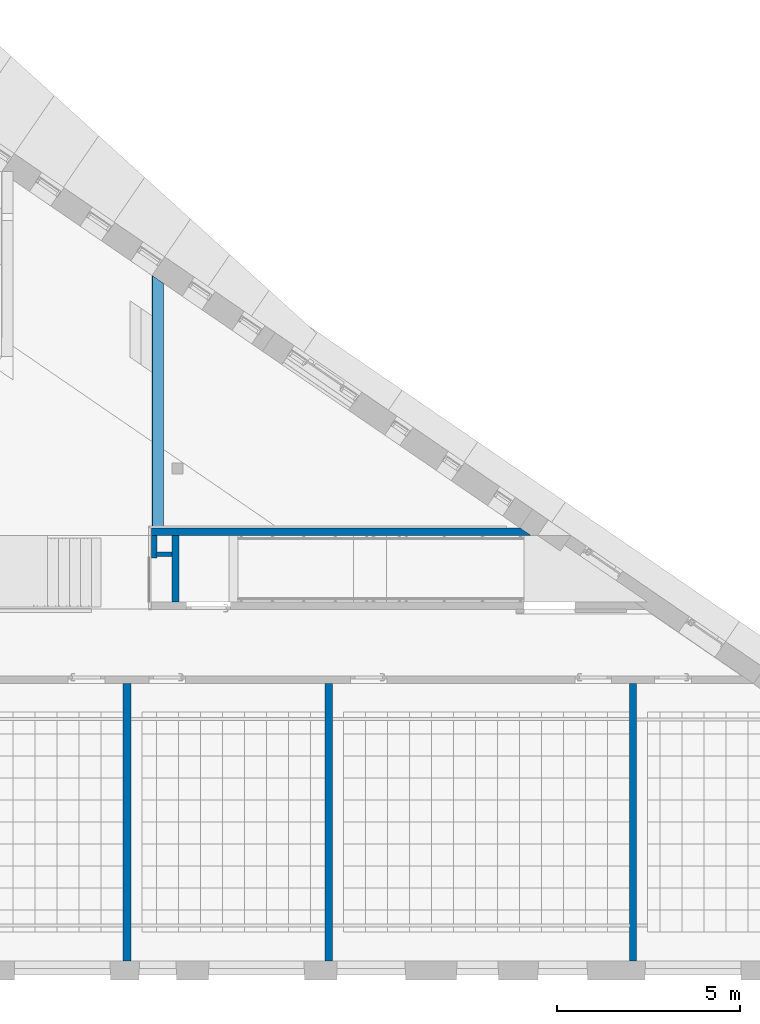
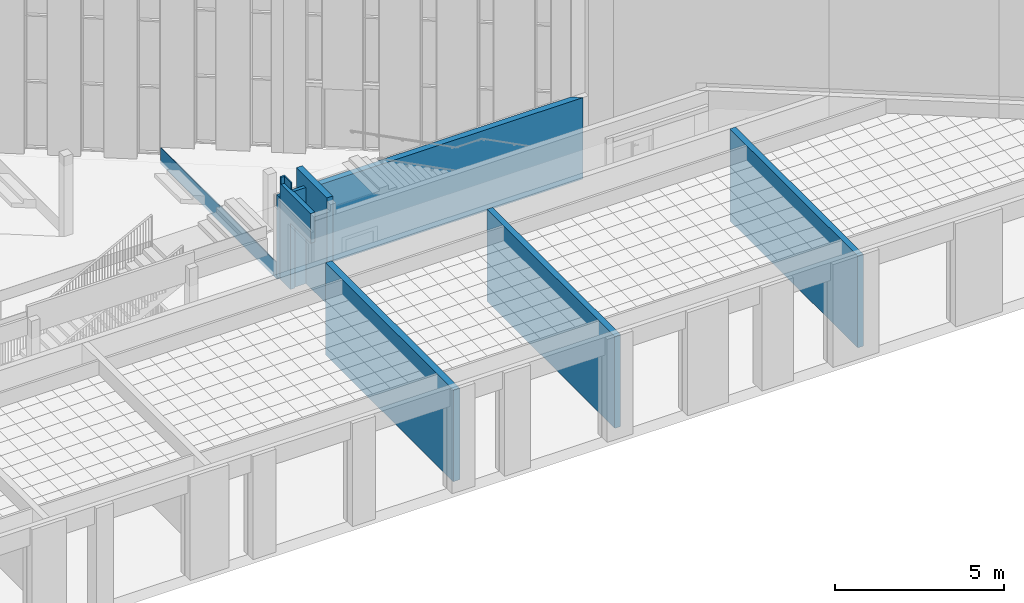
# One storey, part 42 of 79: 8 walls, 1 opening.
"""IFC2X3 building model written with IfcOpenShell, lengths in millimetres."""

from ifc_helpers import new_model, entity, si_unit, converted_unit, derived_unit, money_unit, direction, frame, origin_with_axes, place, context, subcontext, project, spatial, faceted_brep, material, material_list, type_object, element, save


model = new_model("IFC2X3")

# Units and contexts
model_context = context("Model", 3, precision=0.01, world=origin_with_axes(), true_north=direction((0.0, 1.0)))
body_context = subcontext(model_context, "Body", "Model", "MODEL_VIEW")
ifc_project = project(units=[si_unit("LENGTHUNIT", "METRE", prefix="MILLI"), si_unit("AREAUNIT", "SQUARE_METRE"), si_unit("VOLUMEUNIT", "CUBIC_METRE"), converted_unit("PLANEANGLEUNIT", "DEGREE", entity("IfcPlaneAngleMeasure", 0.0174532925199), si_unit("PLANEANGLEUNIT", "RADIAN"), dimensions=[0, 0, 0, 0, 0, 0, 0]), si_unit("SOLIDANGLEUNIT", "STERADIAN"), money_unit("EUR"), converted_unit("TIMEUNIT", "Year", entity("IfcTimeMeasure", 31556926.0), si_unit("TIMEUNIT", "SECOND"), dimensions=[0, 0, 1, 0, 0, 0, 0]), si_unit("MASSUNIT", "GRAM", prefix="KILO"), si_unit("THERMODYNAMICTEMPERATUREUNIT", "DEGREE_CELSIUS"), si_unit("LUMINOUSINTENSITYUNIT", "LUMEN"), si_unit("ENERGYUNIT", "JOULE", prefix="MEGA"), derived_unit("THERMALCONDUCTANCEUNIT", [(si_unit("POWERUNIT", "WATT"), 1), (si_unit("LENGTHUNIT", "METRE"), -1), (si_unit("THERMODYNAMICTEMPERATUREUNIT", "KELVIN"), -1)]), derived_unit("SPECIFICHEATCAPACITYUNIT", [(si_unit("ENERGYUNIT", "JOULE"), 1), (si_unit("MASSUNIT", "GRAM", prefix="KILO"), -1), (si_unit("THERMODYNAMICTEMPERATUREUNIT", "KELVIN"), -1)]), derived_unit("MASSDENSITYUNIT", [(si_unit("MASSUNIT", "GRAM", prefix="KILO"), 1), (si_unit("VOLUMEUNIT", "CUBIC_METRE"), -1)])], contexts=[model_context])

# Site, building, storey
site_placement = place(None, origin_with_axes())
site = spatial("IfcSite", under=ifc_project, at=site_placement, Name="L.Koidula tn 11b", CompositionType="ELEMENT")
building_placement = place(site_placement, origin_with_axes())
building = spatial("IfcBuilding", under=site, at=building_placement, Name="Rakvere Riigigümnaasium", CompositionType="ELEMENT")
storey_placement = place(building_placement, frame((0.0, 0.0, 3720.0), z_axis=(0.0, 0.0, 1.0), x_axis=(1.0, 0.0, 0.0)))
storey = spatial("IfcBuildingStorey", under=building, at=storey_placement, Name="2.korrus +3,72", CompositionType="ELEMENT", Elevation=3720.0)

# Wall
ifc_material_1 = material(Name="Betoon element / plaat")
wall_type_1 = type_object("IfcWallType", Name="SS-01 200", PredefinedType="NOTDEFINED")
wall_1_placement = place(storey_placement, frame((75989.9821418, 15100.4785302, 0.0), z_axis=(0.0, 0.0, 1.0), x_axis=(0.0, 1.0, 0.0)))
element("IfcWall", 1, at=wall_1_placement, inside=storey, type_object=wall_type_1, material=ifc_material_1, Name="Sisesein", context=body_context, shape_type="Brep", body=[
    faceted_brep([(200.000004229, -200.0, 3845.0), (200.0, -200.0, 0.0), (2009.97701138, -199.997962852, 0.0), (2009.97698206, -200.0, 3845.0), (200.0, 0.0, 0.0), (200.000004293, 0.0, 3845.0), (2009.97701138, 0.00203714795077, 0.0), (2009.97698206, 0.0, 3845.0)], [[[0, 1, 2, 3]], [[4, 1, 0, 5]], [[1, 4, 6, 2]], [[6, 7, 3, 2]], [[3, 7, 5, 0]], [[5, 7, 6, 4]]]),
])

# Wall, opening
ifc_material_2 = material(Name="Kipsplaat")
ifc_material_3 = material(Name="mineraalvill+karkass")
ifc_material_list_1 = material_list([ifc_material_2, ifc_material_2, ifc_material_3, ifc_material_2, ifc_material_2])
wall_type_2 = type_object("IfcWallType", Name="SS-07 155", PredefinedType="NOTDEFINED")
wall_2_placement = place(storey_placement, frame((75429.9821418, 15100.4785302, 0.0), z_axis=(0.0, 0.0, 1.0), x_axis=(0.0, 1.0, 0.0)))
wall_2 = element("IfcWall", 2, at=wall_2_placement, inside=storey, type_object=wall_type_2, material=ifc_material_list_1, Name="Sisesein", context=body_context, shape_type="Brep", body=[
    faceted_brep([(1400.0, -15.0, 2400.0), (1400.0, -15.0, 0.0), (2009.97701138, -15.0, 0.0), (2009.97698206, -15.0, 3720.0), (1949.97697553, -15.0, 3720.0), (1949.97697553, -15.0, 3470.0), (200.0, -15.0, 3470.0), (200.0, -15.0, 2400.0), (1400.0, 0.0, 2400.0), (1400.0, 0.0, 0.0), (2009.97701138, 0.0, 0.0), (2009.97698206, -1.7038672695e-06, 3720.0), (1949.97697553, -1.64737912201e-06, 3720.0), (1949.97697553, 0.0, 3470.0), (200.0, 0.0, 3470.0), (200.0, 0.0, 2400.0)], [[[0, 1, 2, 3, 4, 5, 6, 7]], [[1, 0, 8, 9]], [[1, 9, 10, 2]], [[3, 2, 10, 11]], [[4, 3, 11, 12]], [[4, 12, 13, 5]], [[14, 6, 5, 13]], [[15, 7, 6, 14]], [[0, 7, 15, 8]], [[8, 15, 14, 13, 12, 11, 10, 9]]]),
    faceted_brep([(1400.0, -30.0, 2400.0), (1400.0, -30.0, 0.0), (2009.97701138, -30.0, 0.0), (2009.97698206, -30.0, 3720.0), (1949.97697553, -30.0, 3720.0), (1949.97697553, -30.0, 3470.0), (200.0, -30.0, 3470.0), (200.0, -30.0, 2400.0), (1400.0, -15.0, 2400.0), (1400.0, -15.0, 0.0), (2009.97701138, -15.0, 0.0), (2009.97698206, -15.0, 3720.0), (1949.97697553, -15.0, 3720.0), (1949.97697553, -15.0, 3470.0), (200.0, -15.0, 3470.0), (200.0, -15.0, 2400.0)], [[[0, 1, 2, 3, 4, 5, 6, 7]], [[1, 0, 8, 9]], [[1, 9, 10, 2]], [[3, 2, 10, 11]], [[4, 3, 11, 12]], [[4, 12, 13, 5]], [[14, 6, 5, 13]], [[15, 7, 6, 14]], [[0, 7, 15, 8]], [[8, 15, 14, 13, 12, 11, 10, 9]]]),
    faceted_brep([(1400.0, -125.0, 2400.0), (1400.0, -125.0, 0.0), (2009.97701138, -125.0, 0.0), (2009.97698206, -125.0, 3720.0), (1559.97698206, -125.0, 3720.0), (1559.97698206, -125.0, 3470.0), (200.0, -125.0, 3470.0), (200.0, -125.0, 2400.0), (1400.0, -30.0, 2400.0), (1400.0, -30.0, 0.0), (2009.97701138, -30.0, 0.0), (2009.97698206, -30.0, 3720.0), (1949.97697553, -30.0, 3720.0), (1949.97697553, -117.5, 3720.0), (1559.97698206, -117.5, 3720.0), (1559.97698206, -117.5, 3470.0), (1949.97697553, -117.5, 3470.0), (1949.97697553, -30.0, 3470.0), (200.0, -30.0, 3470.0), (200.0, -30.0, 2400.0)], [[[0, 1, 2, 3, 4, 5, 6, 7]], [[1, 0, 8, 9]], [[1, 9, 10, 2]], [[3, 2, 10, 11]], [[3, 11, 12, 13, 14, 4]], [[4, 14, 15, 5]], [[5, 15, 16, 17, 18, 6]], [[19, 7, 6, 18]], [[0, 7, 19, 8]], [[8, 19, 18, 17, 12, 11, 10, 9]], [[12, 17, 16, 13]], [[13, 16, 15, 14]]]),
    faceted_brep([(1400.0, -140.0, 2400.0), (1400.0, -140.0, 0.0), (1468.47698206, -140.0, 0.0), (1468.47698206, -140.0, 3470.0), (200.0, -140.0, 3470.0), (200.0, -140.0, 2400.0), (1400.0, -125.0, 2400.0), (1400.0, -125.0, 0.0), (1468.47698206, -125.0, 0.0), (1468.47698206, -125.0, 3470.0), (200.0, -125.0, 3470.0), (200.0, -125.0, 2400.0)], [[[0, 1, 2, 3, 4, 5]], [[1, 0, 6, 7]], [[1, 7, 8, 2]], [[3, 2, 8, 9]], [[3, 9, 10, 4]], [[11, 5, 4, 10]], [[0, 5, 11, 6]], [[6, 11, 10, 9, 8, 7]]]),
    faceted_brep([(1559.97698206, -125.0, 3720.0), (1559.97698206, -140.0, 3720.0), (2009.97698206, -140.0, 3720.0), (2009.97698206, -125.0, 3720.0), (1559.97698206, -140.0, 3470.0), (1559.97698206, -125.0, 3470.0), (1534.47698206, -140.0, 3470.0), (1534.47698206, -140.0, 0.0), (2009.97701138, -140.0, 0.0), (2009.97701138, -125.0, 0.0), (1534.47698206, -125.0, 0.0), (1534.47698206, -125.0, 3470.0)], [[[0, 1, 2, 3]], [[4, 1, 0, 5]], [[4, 6, 7, 8, 2, 1]], [[3, 2, 8, 9]], [[5, 0, 3, 9, 10, 11]], [[6, 4, 5, 11]], [[6, 11, 10, 7]], [[8, 7, 10, 9]]]),
    faceted_brep([(1400.0, -155.0, 2400.0), (1400.0, -155.0, 0.0), (1455.47698206, -155.0, 0.0), (1455.47698206, -155.0, 3470.0), (200.0, -155.0, 3470.0), (200.0, -155.0, 2400.0), (1400.0, -140.0, 2400.0), (1400.0, -140.0, 0.0), (1455.47698206, -140.0, 0.0), (1455.47698206, -140.0, 3470.0), (200.0, -140.0, 3470.0), (200.0, -140.0, 2400.0)], [[[0, 1, 2, 3, 4, 5]], [[1, 0, 6, 7]], [[1, 7, 8, 2]], [[3, 2, 8, 9]], [[3, 9, 10, 4]], [[11, 5, 4, 10]], [[0, 5, 11, 6]], [[6, 11, 10, 9, 8, 7]]]),
    faceted_brep([(1559.97698206, -140.0, 3720.0), (1559.97698206, -155.0, 3720.0), (2009.97698206, -155.0, 3720.0), (2009.97698206, -140.0, 3720.0), (1559.97698206, -155.0, 3470.0), (1559.97698206, -140.0, 3470.0), (1546.97698206, -155.0, 3470.0), (1546.97698206, -155.0, 0.0), (2009.97701138, -155.0, 0.0), (2009.97701138, -140.0, 0.0), (1546.97698206, -140.0, 0.0), (1546.97698206, -140.0, 3470.0)], [[[0, 1, 2, 3]], [[4, 1, 0, 5]], [[4, 6, 7, 8, 2, 1]], [[3, 2, 8, 9]], [[5, 0, 3, 9, 10, 11]], [[6, 4, 5, 11]], [[6, 11, 10, 7]], [[8, 7, 10, 9]]]),
])
opening_placement = place(wall_2_placement, frame((800.0, 0.0, 0.0), z_axis=(0.0, 0.0, 1.0), x_axis=(1.0, 0.0, 0.0)))
element("IfcOpeningElement", 3, at=opening_placement, cuts=wall_2, Name="ava", context=body_context, shape_type="Brep", body=[
    faceted_brep([(600.0, 155.0, 0.0), (600.0, 155.0, 2400.0), (600.0, 0.0, 2400.0), (600.0, 0.0, 0.0), (-600.0, 155.0, 0.0), (-600.0, 155.0, 2400.0), (-600.0, 0.0, 2400.0), (-600.0, 0.0, 0.0)], [[[0, 1, 2, 3]], [[0, 4, 5, 1]], [[1, 5, 6, 2]], [[3, 2, 6, 7]], [[4, 0, 3, 7]], [[5, 4, 7, 6]]]),
    faceted_brep([(600.0, -155.0, 2400.0), (600.0, -155.0, 0.0), (600.0, 0.0, 0.0), (600.0, 0.0, 2400.0), (-600.0, -155.0, 2400.0), (-600.0, -155.0, 0.0), (-600.0, 0.0, 0.0), (-600.0, 0.0, 2400.0)], [[[0, 1, 2, 3]], [[0, 4, 5, 1]], [[1, 5, 6, 2]], [[3, 2, 6, 7]], [[4, 0, 3, 7]], [[5, 4, 7, 6]]]),
])

# Walls
ifc_material_4 = material(Name="siseviimistlus-seinad")
ifc_material_list_2 = material_list([ifc_material_4, ifc_material_1, ifc_material_4])
wall_type_3 = type_object("IfcWallType", Name="SS-01-2 220", PredefinedType="NOTDEFINED")
wall_3_placement = place(storey_placement, frame((74660.015089, 13280.4543717, 0.0), z_axis=(0.0, 0.0, 1.0), x_axis=(0.0, -1.0, 0.0)))
element("IfcWall", 4, at=wall_3_placement, inside=storey, type_object=wall_type_3, material=ifc_material_list_2, Name="Sisesein", context=body_context, shape_type="Brep", body=[
    faceted_brep([(7779.99883287, 200.0, 3320.0), (7779.99883287, 210.0, 3320.0), (210.0, 210.0, 3320.00000006), (210.0, 200.0, 3320.00000006), (7779.99883287, 200.0, 0.0), (7779.99883287, 210.0, 0.0), (210.0, 210.0, 0.0), (210.0, 200.0, 0.0)], [[[0, 1, 2, 3]], [[1, 0, 4, 5]], [[1, 5, 6, 2]], [[3, 2, 6, 7]], [[0, 3, 7, 4]], [[5, 4, 7, 6]]]),
    faceted_brep([(7779.99883287, 0.0, 3320.0), (7779.99883287, 200.0, 3320.0), (200.0, 200.0, 3320.00000006), (200.0, 0.0, 3320.00000006), (7779.99883287, 0.0, 0.0), (7779.99883287, 200.0, 0.0), (200.0, 200.0, 0.0), (200.0, 0.0, 0.0)], [[[0, 1, 2, 3]], [[1, 0, 4, 5]], [[1, 5, 6, 2]], [[3, 2, 6, 7]], [[0, 3, 7, 4]], [[5, 4, 7, 6]]]),
    faceted_brep([(7779.99883287, -10.0, 3320.0), (7779.99883287, 0.0, 3320.0), (210.0, 0.0, 3320.00000006), (210.0, -10.0, 3320.00000006), (7779.99883287, -10.0, 0.0), (7779.99883287, 0.0, 0.0), (210.0, 0.0, 0.0), (210.0, -10.0, 0.0)], [[[0, 1, 2, 3]], [[1, 0, 4, 5]], [[1, 5, 6, 2]], [[3, 2, 6, 7]], [[0, 3, 7, 4]], [[5, 4, 7, 6]]]),
])
ifc_material_list_3 = material_list([ifc_material_4, ifc_material_1])
wall_type_4 = type_object("IfcWallType", Name="SS-01-1 210", PredefinedType="NOTDEFINED")
wall_4_placement = place(storey_placement, frame((75429.9821418, 17110.4555416, 0.0), z_axis=(0.0, 0.0, 1.0), x_axis=(1.0, 0.0, 0.0)))
element("IfcWall", 5, at=wall_4_placement, inside=storey, type_object=wall_type_4, material=ifc_material_list_3, Name="Sisesein", context=body_context, shape_type="Brep", body=[
    faceted_brep([(-9.51152685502e-05, 210.0, 2550.0), (3449.03442456, 210.0, 2550.0), (3449.03442456, 210.0, 2945.0), (10054.1332152, 210.0, 2945.0), (10054.1332152, 210.0, 465.0), (10360.3105331, 210.0, 465.0), (10360.3105331, 210.0, 0.0), (759.997745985, 210.0, 0.0), (759.997745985, 210.0, 69.9999970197), (559.997745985, 210.0, 69.9999970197), (559.997745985, 210.0, 0.0), (0.0, 210.0, 0.0), (-9.51152685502e-05, 199.999937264, 2550.0), (3449.03442456, 199.999937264, 2550.0), (3449.03442456, 199.999937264, 2945.0), (10068.7130874, 200.0, 2945.0), (10068.7130874, 200.0, 465.0), (10360.3105331, 200.0, 465.0), (10360.3105331, 200.0, 0.0), (759.99773775, 200.0, 0.0), (759.99773775, 200.0, 69.9999970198), (559.99773775, 200.0, 69.9999970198), (559.99773775, 200.0, 0.0), (0.0, 200.0, 0.0)], [[[0, 1, 2, 3, 4, 5, 6, 7, 8, 9, 10, 11]], [[1, 0, 12, 13]], [[2, 1, 13, 14]], [[2, 14, 15, 3]], [[4, 3, 15, 16]], [[16, 17, 5, 4]], [[6, 5, 17, 18]], [[18, 19, 7, 6]], [[20, 8, 7, 19]], [[21, 9, 8, 20]], [[22, 10, 9, 21]], [[11, 10, 22, 23]], [[12, 0, 11, 23]], [[13, 12, 23, 22, 21, 20, 19, 18, 17, 16, 15, 14]]]),
    faceted_brep([(0.0, 200.0, 2945.0), (10068.7130874, 200.0, 2945.0), (10068.7130874, 200.0, 465.0), (10360.3105331, 200.0, 465.0), (10360.3105331, 200.0, 0.0), (0.0, 200.0, 0.0), (0.0, 0.0, 2945.0), (10360.3105488, -1.07664028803e-05, 2945.0), (10360.3105331, 0.0, 465.0), (10360.3105331, 0.0, 0.0), (0.0, 0.0, 0.0)], [[[0, 1, 2, 3, 4, 5]], [[6, 7, 1, 0]], [[2, 1, 7, 8]], [[2, 8, 3]], [[4, 3, 8, 9]], [[10, 5, 4, 9]], [[5, 10, 6, 0]], [[9, 8, 7, 6, 10]]]),
])
ifc_material_5 = material(Name="Parkett-2")
ifc_material_6 = material(Name="Viineer")
ifc_material_list_4 = material_list([ifc_material_5, ifc_material_6, ifc_material_1])
wall_type_5 = type_object("IfcWallType", Name="SS-01-3 320", PredefinedType="NOTDEFINED")
wall_5_placement = place(storey_placement, frame((75465.08798, 17320.4555416, -130.0), z_axis=(0.0, 0.0, 1.0), x_axis=(0.0, 1.0, 0.0)))
element("IfcWall", 6, at=wall_5_placement, inside=storey, type_object=wall_type_5, material=ifc_material_list_4, Name="Sisesein", context=body_context, shape_type="Brep", body=[
    faceted_brep([(6885.53862645, 20.0, 595.0), (0.0, 20.0, 595.0), (0.0, 10.0, 595.0), (6878.68716617, 10.0, 595.0), (6885.53862645, 20.0, 0.0), (0.0, 20.0, 0.0), (0.0, 10.0, 0.0), (6878.68716617, 10.0, 0.0)], [[[0, 1, 2, 3]], [[4, 5, 1, 0]], [[2, 1, 5, 6]], [[3, 2, 6, 7]], [[3, 7, 4, 0]], [[7, 6, 5, 4]]]),
    faceted_brep([(6878.68716617, 10.0, 465.0), (6871.82839552, 0.0, 465.0), (6871.82839552, 0.0, 0.0), (6878.68716617, 10.0, 0.0), (0.0, 0.0, 465.0), (0.0, 10.0, 465.0), (0.0, 0.0, 0.0), (0.0, 10.0, 0.0)], [[[0, 1, 2, 3]], [[4, 1, 0, 5]], [[1, 4, 6, 2]], [[3, 2, 6, 7]], [[5, 0, 3, 7]], [[4, 5, 7, 6]]]),
    faceted_brep([(6871.82839552, 0.0, 200.0), (6666.06527621, -300.0, 200.0), (6666.06527621, -300.0, 0.0), (6871.82839552, 0.0, 0.0), (0.0, -300.0, 200.0), (0.0, 0.0, 200.0), (0.0, -300.0, 0.0), (0.0, 0.0, 0.0)], [[[0, 1, 2, 3]], [[4, 1, 0, 5]], [[1, 4, 6, 2]], [[3, 2, 6, 7]], [[5, 0, 3, 7]], [[4, 5, 7, 6]]]),
])
wall_type_6 = type_object("IfcWallType", Name="SS-08 118", PredefinedType="NOTDEFINED")
wall_6_placement = place(storey_placement, frame((75989.9821418, 16660.4555123, 0.0), z_axis=(0.0, 0.0, 1.0), x_axis=(-1.0, 0.0, 0.0)))
element("IfcWall", 7, at=wall_6_placement, inside=storey, type_object=wall_type_6, material=ifc_material_list_1, Name="Sisesein", context=body_context, shape_type="Brep", body=[
    faceted_brep([(405.0, 104.5, 3470.0), (0.000202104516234, 104.5, 3470.0), (0.0, 104.5, 0.0), (405.0, 104.5, 0.0), (0.000200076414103, 117.5, 3470.0), (405.0, 117.5, 3470.0), (0.0, 117.5, 0.0), (405.0, 117.5, 0.0)], [[[0, 1, 2, 3]], [[4, 1, 0, 5]], [[1, 4, 6, 2]], [[6, 7, 3, 2]], [[5, 0, 3, 7]], [[4, 5, 7, 6]]]),
    faceted_brep([(420.0, 91.5, 3470.0), (0.000204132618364, 91.5, 3470.0), (0.0, 91.5, 0.0), (420.0, 91.5, 0.0), (0.000202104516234, 104.5, 3470.0), (420.0, 104.5, 3470.0), (0.0, 104.5, 0.0), (420.0, 104.5, 0.0)], [[[0, 1, 2, 3]], [[4, 1, 0, 5]], [[1, 4, 6, 2]], [[6, 7, 3, 2]], [[5, 0, 3, 7]], [[4, 5, 7, 6]]]),
    faceted_brep([(435.0, 25.5, 3470.0), (0.00021442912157, 25.5, 3470.0), (0.0, 25.5, 0.0), (435.0, 25.5, 0.0), (0.000204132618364, 91.5, 3470.0), (435.0, 91.5, 3470.0), (0.0, 91.5, 0.0), (435.0, 91.5, 0.0)], [[[0, 1, 2, 3]], [[4, 1, 0, 5]], [[1, 4, 6, 2]], [[6, 7, 3, 2]], [[5, 0, 3, 7]], [[4, 5, 7, 6]]]),
    faceted_brep([(420.0, 13.0, 3470.0), (0.000216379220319, 13.0, 3470.0), (0.0, 13.0, 0.0), (420.0, 13.0, 0.0), (0.00021442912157, 25.5, 3470.0), (420.0, 25.5, 3470.0), (0.0, 25.5, 0.0), (420.0, 25.5, 0.0)], [[[0, 1, 2, 3]], [[4, 1, 0, 5]], [[1, 4, 6, 2]], [[6, 7, 3, 2]], [[5, 0, 3, 7]], [[4, 5, 7, 6]]]),
    faceted_brep([(405.0, 0.0, 3470.0), (0.00021840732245, 0.0, 3470.0), (0.0, 0.0, 0.0), (405.0, 0.0, 0.0), (0.000216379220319, 13.0, 3470.0), (405.0, 13.0, 3470.0), (0.0, 13.0, 0.0), (405.0, 13.0, 0.0)], [[[0, 1, 2, 3]], [[4, 1, 0, 5]], [[1, 4, 6, 2]], [[6, 7, 3, 2]], [[5, 0, 3, 7]], [[4, 5, 7, 6]]]),
])
ifc_material_7 = material(Name="Krohv")
ifc_material_8 = material(Name="Silikaat plokk")
ifc_material_list_5 = material_list([ifc_material_7, ifc_material_8, ifc_material_7])
wall_type_7 = type_object("IfcWallType", Name="SS-04 200", PredefinedType="NOTDEFINED")
for number, where, z_axis, x_axis in (
    (8, (88480.0000019, 13280.4543717, 0.0), (0.0, 0.0, 1.0), (0.0, -1.0, 0.0)),
    (9, (80180.0443135, 13280.4543717, 0.0), (0.0, 0.0, 1.0), (0.0, -1.0, 0.0)),
):
    element("IfcWall", number, at=place(storey_placement, frame(where, z_axis=z_axis, x_axis=x_axis)), inside=storey, type_object=wall_type_7, material=ifc_material_list_5, Name="Sisesein", context=body_context, shape_type="Brep", body=[
        faceted_brep([(7769.99883287, 180.0, 3320.0), (7769.99883287, 190.0, 3320.0), (210.0, 190.0, 3320.00000006), (210.0, 180.0, 3320.00000006), (7769.99883287, 180.0, 0.0), (7769.99883287, 190.0, 0.0), (210.0, 190.0, 0.0), (210.0, 180.0, 0.0)], [[[0, 1, 2, 3]], [[1, 0, 4, 5]], [[1, 5, 6, 2]], [[3, 2, 6, 7]], [[0, 3, 7, 4]], [[5, 4, 7, 6]]]),
        faceted_brep([(7779.99883287, 0.0, 3320.0), (7779.99883287, 180.0, 3320.0), (200.0, 180.0, 3320.00000006), (200.0, 0.0, 3320.00000006), (7779.99883287, 0.0, 0.0), (7779.99883287, 180.0, 0.0), (200.0, 180.0, 0.0), (200.0, 0.0, 0.0)], [[[0, 1, 2, 3]], [[1, 0, 4, 5]], [[1, 5, 6, 2]], [[3, 2, 6, 7]], [[0, 3, 7, 4]], [[5, 4, 7, 6]]]),
        faceted_brep([(7769.99883287, -10.0, 3320.0), (7769.99883287, 0.0, 3320.0), (210.0, 0.0, 3320.00000006), (210.0, -10.0, 3320.00000006), (7769.99883287, -10.0, 0.0), (7769.99883287, 0.0, 0.0), (210.0, 0.0, 0.0), (210.0, -10.0, 0.0)], [[[0, 1, 2, 3]], [[1, 0, 4, 5]], [[1, 5, 6, 2]], [[3, 2, 6, 7]], [[0, 3, 7, 4]], [[5, 4, 7, 6]]]),
    ])

save(model, "model.ifc")
